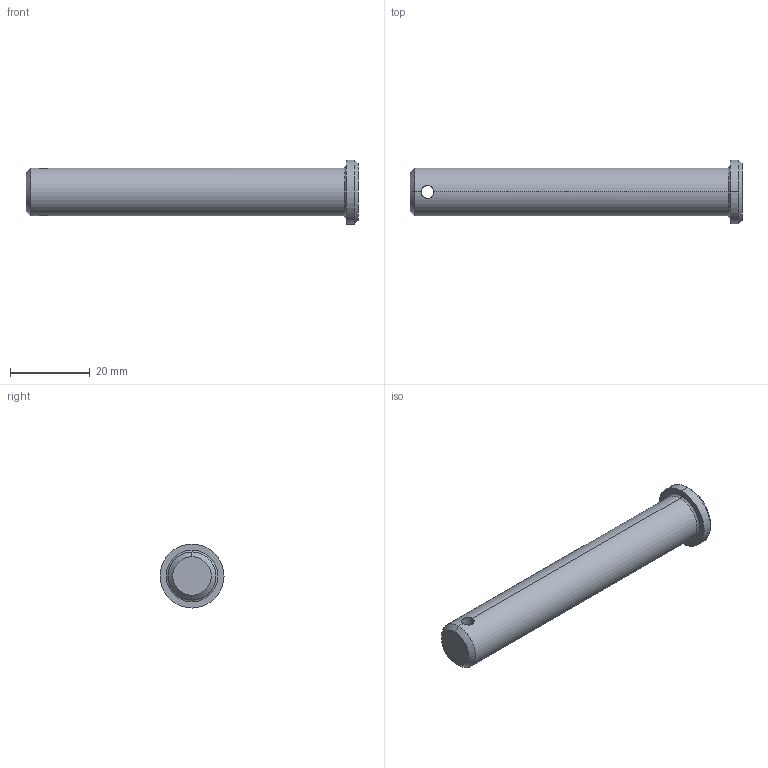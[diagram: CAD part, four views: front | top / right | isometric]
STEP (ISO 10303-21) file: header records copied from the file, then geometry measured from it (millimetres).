
FILE_DESCRIPTION (( 'STEP AP203' ), '1' );
FILE_NAME ('Wiberger-sms2360_12x80.step', '2012-10-09T08:57:48', ( 'Magnus' ), ( 'Wiberger' ), 'SwSTEP 2.0', 'SolidWorks 2011', '' );
FILE_SCHEMA (( 'CONFIG_CONTROL_DESIGN' ));
Length unit declared in the file: millimetre
Products named in the file (1): Wiberger-sms2360_12x80
Bounding box: 83 x 16 x 16 mm (x, y, z)
Volume: 9516.5 mm3; surface area: 3610.3 mm2
Topology: 1 solids, 1 shells, 15 faces, 32 edges, 18 vertices
Faces by surface type: cylinder 6, cone 4, plane 3, torus 2
Entity records: 579 total; most frequent: CARTESIAN_POINT 170, DIRECTION 76, ORIENTED_EDGE 64, AXIS2_PLACEMENT_3D 32, EDGE_CURVE 32, VERTEX_POINT 18, CIRCLE 16, EDGE_LOOP 16
